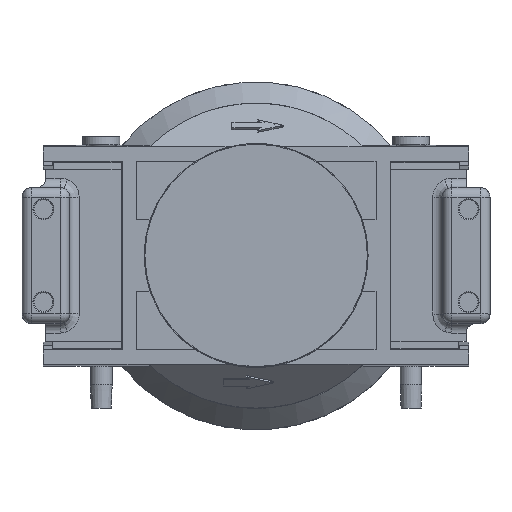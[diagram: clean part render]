
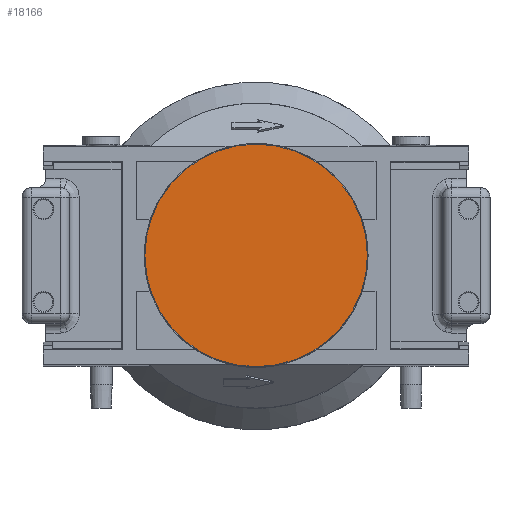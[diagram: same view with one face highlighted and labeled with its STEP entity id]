
A CAD part, top view. The second image highlights one B-rep face of the part: STEP entity #18166.
In plain terms, the highlighted planar face has unit normal (0, 0, 1).
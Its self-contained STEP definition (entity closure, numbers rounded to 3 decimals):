
#18135=CARTESIAN_POINT('',(23.35,0.,57.3));
#18136=VERTEX_POINT('',#18135);
#18137=CARTESIAN_POINT('',(0.,0.,57.3));
#18138=DIRECTION('',(0.0,0.0,-1.0));
#18139=DIRECTION('',(-1.0,0.0,0.0));
#18140=AXIS2_PLACEMENT_3D('',#18137,#18138,#18139);
#18141=CIRCLE('',#18140,23.35);
#18142=EDGE_CURVE('',#18136,#18136,#18141,.T.);
#18158=CARTESIAN_POINT('',(0.,0.,57.3));
#18159=DIRECTION('',(0.0,0.0,-1.0));
#18160=DIRECTION('',(-1.0,0.0,0.0));
#18161=AXIS2_PLACEMENT_3D('',#18158,#18159,#18160);
#18162=PLANE('',#18161);
#18163=ORIENTED_EDGE('',*,*,#18142,.F.);
#18164=EDGE_LOOP('',(#18163));
#18165=FACE_OUTER_BOUND('',#18164,.T.);
#18166=ADVANCED_FACE('',(#18165),#18162,.F.);
